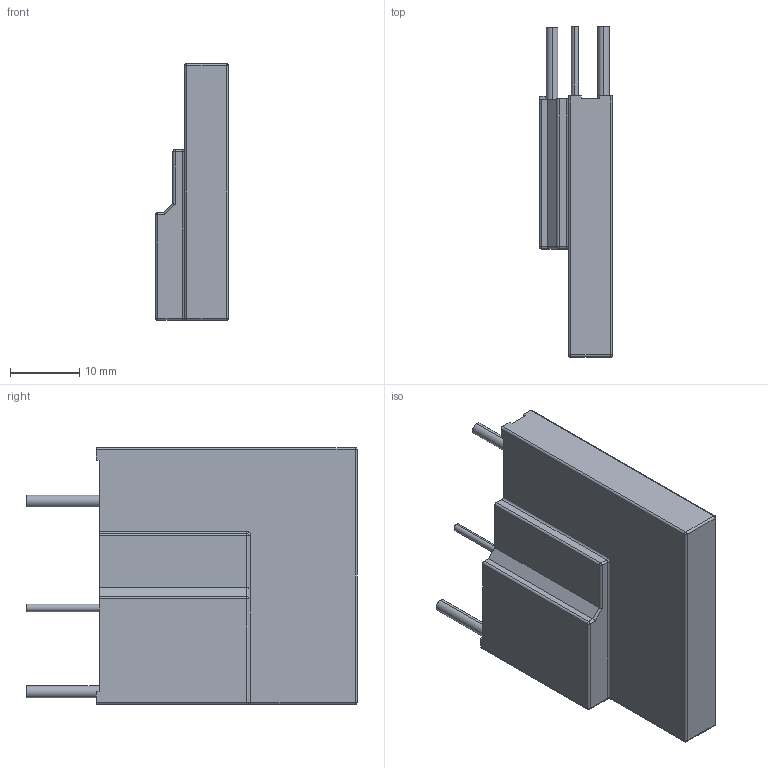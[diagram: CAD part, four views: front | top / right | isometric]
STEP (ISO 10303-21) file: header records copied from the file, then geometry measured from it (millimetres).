
FILE_DESCRIPTION((''),'2;1');
FILE_NAME('TFMOV34S','2020-07-15T13:21:58',('SET-00098'),(''),'CREO PARAMETRIC BY PTC INC, 2018400','CREO PARAMETRIC BY PTC INC, 2018400','');
FILE_SCHEMA(('CONFIG_CONTROL_DESIGN'));
Length unit declared in the file: millimetre
Products named in the file (1): TFMOV34S
Bounding box: 10.5 x 47.6 x 37 mm (x, y, z)
Volume: 10484.6 mm3; surface area: 4126.2 mm2
Topology: 1 solids, 1 shells, 69 faces, 165 edges, 101 vertices
Faces by surface type: plane 35, cylinder 25, sphere 7, torus 2
Entity records: 2019 total; most frequent: DIRECTION 349, CARTESIAN_POINT 349, ORIENTED_EDGE 330, EDGE_CURVE 165, AXIS2_PLACEMENT_3D 117, VECTOR 115, LINE 115, VERTEX_POINT 101
